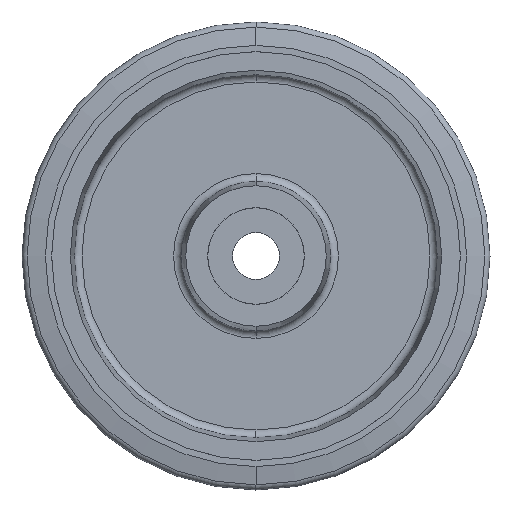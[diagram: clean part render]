
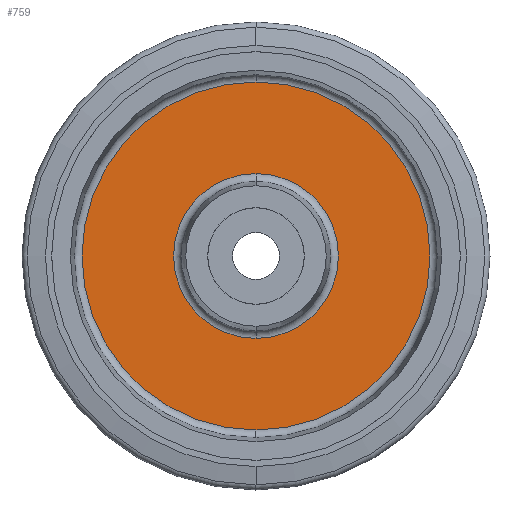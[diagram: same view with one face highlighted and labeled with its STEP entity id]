
A CAD part, left-side view. The second image highlights one B-rep face of the part: STEP entity #759.
In plain terms, the highlighted planar face has unit normal (-1, 0, 0).
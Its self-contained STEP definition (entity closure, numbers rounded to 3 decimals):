
#6 = FACE_BOUND ( 'NONE', #1851, .T. ) ;
#12 = EDGE_CURVE ( 'NONE', #537, #1457, #1149, .T. ) ;
#216 = AXIS2_PLACEMENT_3D ( 'NONE', #1506, #707, #1346 ) ;
#236 = DIRECTION ( 'NONE',  ( 0., 0., 1. ) ) ;
#253 = AXIS2_PLACEMENT_3D ( 'NONE', #1307, #502, #330 ) ;
#303 = DIRECTION ( 'NONE',  ( 1., 0., 0. ) ) ;
#327 = EDGE_CURVE ( 'NONE', #450, #1294, #1222, .T. ) ;
#330 = DIRECTION ( 'NONE',  ( 0., 0., 1. ) ) ;
#432 = CARTESIAN_POINT ( 'NONE',  ( -6., 0., 0. ) ) ;
#450 = VERTEX_POINT ( 'NONE', #2022 ) ;
#452 = EDGE_CURVE ( 'NONE', #1457, #537, #586, .T. ) ;
#502 = DIRECTION ( 'NONE',  ( -1., 0., 0. ) ) ;
#537 = VERTEX_POINT ( 'NONE', #1112 ) ;
#583 = DIRECTION ( 'NONE',  ( -1., 0., 0. ) ) ;
#586 = CIRCLE ( 'NONE', #216, 52.819 ) ;
#601 = AXIS2_PLACEMENT_3D ( 'NONE', #1579, #303, #791 ) ;
#620 = AXIS2_PLACEMENT_3D ( 'NONE', #432, #583, #236 ) ;
#688 = EDGE_CURVE ( 'NONE', #1294, #450, #972, .T. ) ;
#707 = DIRECTION ( 'NONE',  ( -1., 0., 0. ) ) ;
#755 = DIRECTION ( 'NONE',  ( 0., 0., 1. ) ) ;
#759 = ADVANCED_FACE ( 'NONE', ( #6, #1767 ), #1423, .F. ) ;
#791 = DIRECTION ( 'NONE',  ( 0., 0., -1. ) ) ;
#867 = ORIENTED_EDGE ( 'NONE', *, *, #452, .F. ) ;
#928 = CARTESIAN_POINT ( 'NONE',  ( -6., 0., -111.531 ) ) ;
#972 = CIRCLE ( 'NONE', #1503, 111.531 ) ;
#1075 = EDGE_LOOP ( 'NONE', ( #1536, #2068 ) ) ;
#1112 = CARTESIAN_POINT ( 'NONE',  ( -6., 0., -52.819 ) ) ;
#1149 = CIRCLE ( 'NONE', #253, 52.819 ) ;
#1222 = CIRCLE ( 'NONE', #620, 111.531 ) ;
#1244 = CARTESIAN_POINT ( 'NONE',  ( -6., 0., 0. ) ) ;
#1294 = VERTEX_POINT ( 'NONE', #928 ) ;
#1307 = CARTESIAN_POINT ( 'NONE',  ( -6., 0., 0. ) ) ;
#1346 = DIRECTION ( 'NONE',  ( 0., 0., 1. ) ) ;
#1423 = PLANE ( 'NONE',  #601 ) ;
#1457 = VERTEX_POINT ( 'NONE', #1626 ) ;
#1503 = AXIS2_PLACEMENT_3D ( 'NONE', #1244, #1552, #755 ) ;
#1506 = CARTESIAN_POINT ( 'NONE',  ( -6., 0., 0. ) ) ;
#1536 = ORIENTED_EDGE ( 'NONE', *, *, #327, .T. ) ;
#1552 = DIRECTION ( 'NONE',  ( -1., 0., 0. ) ) ;
#1579 = CARTESIAN_POINT ( 'NONE',  ( -6., 111.531, 0. ) ) ;
#1618 = ORIENTED_EDGE ( 'NONE', *, *, #12, .F. ) ;
#1626 = CARTESIAN_POINT ( 'NONE',  ( -6., 0., 52.819 ) ) ;
#1767 = FACE_OUTER_BOUND ( 'NONE', #1075, .T. ) ;
#1851 = EDGE_LOOP ( 'NONE', ( #867, #1618 ) ) ;
#2022 = CARTESIAN_POINT ( 'NONE',  ( -6., 0., 111.531 ) ) ;
#2068 = ORIENTED_EDGE ( 'NONE', *, *, #688, .T. ) ;
